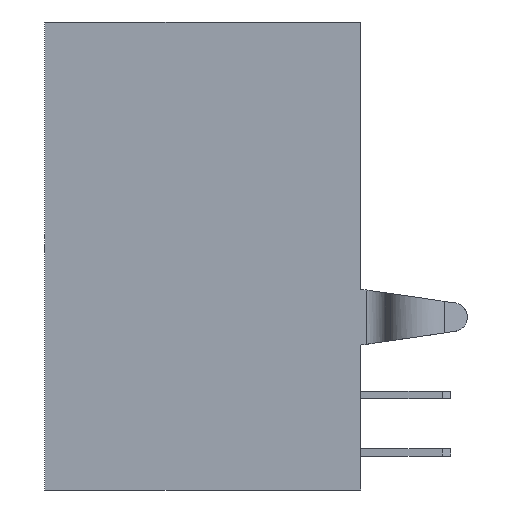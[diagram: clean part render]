
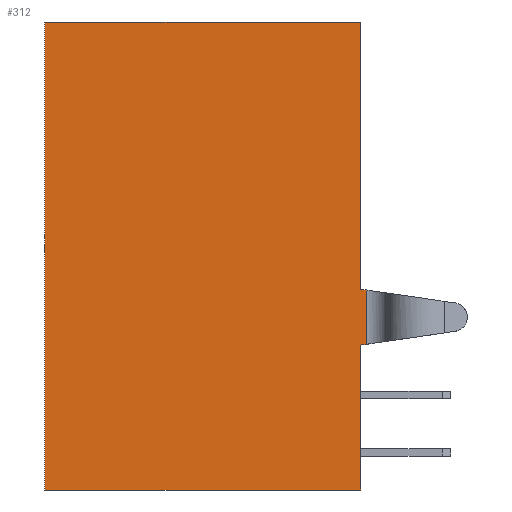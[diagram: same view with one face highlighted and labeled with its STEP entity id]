
A CAD part, left-side view. The second image highlights one B-rep face of the part: STEP entity #312.
In plain terms, the highlighted planar face has unit normal (-1, 0, 0).
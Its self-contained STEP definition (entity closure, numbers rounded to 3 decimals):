
#312 = ADVANCED_FACE( 'NONE', ( #680 ), #681, .F. );
#680 = FACE_OUTER_BOUND( '', #1111, .T. );
#681 = PLANE( '', #1112 );
#1111 = EDGE_LOOP( '', ( #1974, #1975, #1976, #1977, #1978, #1979, #1980, #1981 ) );
#1112 = AXIS2_PLACEMENT_3D( '', #1982, #1983, #1984 );
#1974 = ORIENTED_EDGE( '', *, *, #2974, .F. );
#1975 = ORIENTED_EDGE( '', *, *, #2950, .T. );
#1976 = ORIENTED_EDGE( '', *, *, #2692, .F. );
#1977 = ORIENTED_EDGE( '', *, *, #2975, .T. );
#1978 = ORIENTED_EDGE( '', *, *, #2976, .F. );
#1979 = ORIENTED_EDGE( '', *, *, #2977, .F. );
#1980 = ORIENTED_EDGE( '', *, *, #2896, .T. );
#1981 = ORIENTED_EDGE( '', *, *, #2957, .T. );
#1982 = CARTESIAN_POINT( '', ( -6.02, 5.5, 8.15 ) );
#1983 = DIRECTION( '', ( 1., 0., 0. ) );
#1984 = DIRECTION( '', ( 0., 1., 0. ) );
#2692 = EDGE_CURVE( 'NONE', #3265, #3266, #3267, .T. );
#2896 = EDGE_CURVE( 'NONE', #3595, #3593, #3596, .T. );
#2950 = EDGE_CURVE( 'NONE', #3669, #3266, #3670, .T. );
#2957 = EDGE_CURVE( 'NONE', #3593, #3680, #3681, .T. );
#2974 = EDGE_CURVE( 'NONE', #3669, #3680, #3704, .T. );
#2975 = EDGE_CURVE( 'NONE', #3265, #3705, #3706, .T. );
#2976 = EDGE_CURVE( 'NONE', #3707, #3705, #3708, .T. );
#2977 = EDGE_CURVE( 'NONE', #3595, #3707, #3709, .T. );
#3265 = VERTEX_POINT( 'NONE', #4172 );
#3266 = VERTEX_POINT( 'NONE', #4173 );
#3267 = LINE( '', #4174, #4175 );
#3593 = VERTEX_POINT( 'NONE', #4687 );
#3595 = VERTEX_POINT( 'NONE', #4690 );
#3596 = LINE( '', #4691, #4692 );
#3669 = VERTEX_POINT( 'NONE', #4828 );
#3670 = LINE( '', #4829, #4830 );
#3680 = VERTEX_POINT( 'NONE', #4872 );
#3681 = LINE( '', #4873, #4874 );
#3704 = LINE( '', #4914, #4915 );
#3705 = VERTEX_POINT( 'NONE', #4916 );
#3706 = LINE( '', #4917, #4918 );
#3707 = VERTEX_POINT( 'NONE', #4919 );
#3708 = LINE( '', #4920, #4921 );
#3709 = LINE( '', #4922, #4923 );
#4172 = CARTESIAN_POINT( '', ( -6.02, -5.7, -1.184 ) );
#4173 = CARTESIAN_POINT( '', ( -6.02, -5.7, -3.076 ) );
#4174 = CARTESIAN_POINT( '', ( -6.02, -5.7, -1.155 ) );
#4175 = VECTOR( '', #5304, 1000. );
#4687 = CARTESIAN_POINT( '', ( -6.02, 5.5, -8.15 ) );
#4690 = CARTESIAN_POINT( '', ( -6.02, 5.5, 8.15 ) );
#4691 = CARTESIAN_POINT( '', ( -6.02, 5.5, 8.15 ) );
#4692 = VECTOR( '', #5496, 1000. );
#4828 = CARTESIAN_POINT( '', ( -6.02, -5.5, -3.105 ) );
#4829 = CARTESIAN_POINT( '', ( -6.02, 3.663, -4.442 ) );
#4830 = VECTOR( '', #5536, 1000. );
#4872 = CARTESIAN_POINT( '', ( -6.02, -5.5, -8.15 ) );
#4873 = CARTESIAN_POINT( '', ( -6.02, 5.5, -8.15 ) );
#4874 = VECTOR( '', #5539, 1000. );
#4914 = CARTESIAN_POINT( '', ( -6.02, -5.5, 8.15 ) );
#4915 = VECTOR( '', #5556, 1000. );
#4916 = CARTESIAN_POINT( '', ( -6.02, -5.5, -1.155 ) );
#4917 = CARTESIAN_POINT( '', ( -6.02, 6.6, 0.61 ) );
#4918 = VECTOR( '', #5557, 1000. );
#4919 = CARTESIAN_POINT( '', ( -6.02, -5.5, 8.15 ) );
#4920 = CARTESIAN_POINT( '', ( -6.02, -5.5, 8.15 ) );
#4921 = VECTOR( '', #5558, 1000. );
#4922 = CARTESIAN_POINT( '', ( -6.02, 5.5, 8.15 ) );
#4923 = VECTOR( '', #5559, 1000. );
#5304 = DIRECTION( '', ( 0., 0., -1. ) );
#5496 = DIRECTION( '', ( 0., 0., -1. ) );
#5536 = DIRECTION( '', ( 0., -0.99, 0.144 ) );
#5539 = DIRECTION( '', ( 0., -1., 0. ) );
#5556 = DIRECTION( '', ( 0., 0., -1. ) );
#5557 = DIRECTION( '', ( 0., 0.99, 0.144 ) );
#5558 = DIRECTION( '', ( 0., 0., -1. ) );
#5559 = DIRECTION( '', ( 0., -1., 0. ) );
